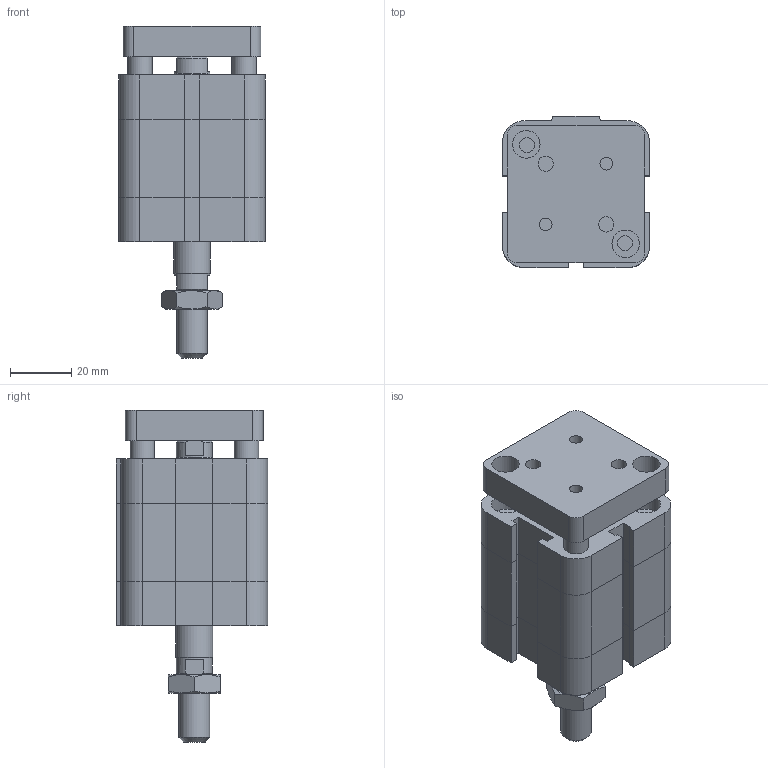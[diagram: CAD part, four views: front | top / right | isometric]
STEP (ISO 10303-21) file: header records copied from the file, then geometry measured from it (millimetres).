
FILE_DESCRIPTION((''),'2;1');
FILE_NAME('I:\Area Tecnica\Disegni\VARIE-3D\Componenti\EUROPE\15##_###_####_09_#\1581_32_0010_09_1.iam.stp','2009-04-20T15:44:03',(''),(''),'Autodesk Inventor 2009','Autodesk Inventor 2009','');
FILE_SCHEMA(('AUTOMOTIVE_DESIGN { 1 0 10303 214 1 1 1 1 }'));
Length unit declared in the file: millimetre
Products named in the file (4): 1581_32_0010_09_1; 1581_32_0010_08_1_C; 1561_32_0010_09_1_SA; DBFM10
Assembly tree (3 placements, depth 2):
  1581_32_0010_09_1
    1581_32_0010_08_1_C
    1561_32_0010_09_1_SA
    DBFM10
Bounding box: 48 x 49.5 x 108.5 mm (x, y, z)
Volume: 134297.8 mm3; surface area: 34722.3 mm2
Topology: 3 solids, 3 shells, 209 faces, 470 edges, 287 vertices
Faces by surface type: plane 120, bspline 45, cylinder 23, cone 21
Full cylindrical faces by diameter (mm): 8 x2, 8.8 x1, 10 x1, 11.7 x2, 12 x1
Entity records: 5963 total; most frequent: CARTESIAN_POINT 1453, DIRECTION 838, ORIENTED_EDGE 834, EDGE_CURVE 417, AXIS2_PLACEMENT_3D 282, EDGE_LOOP 282, VECTOR 274, LINE 274
